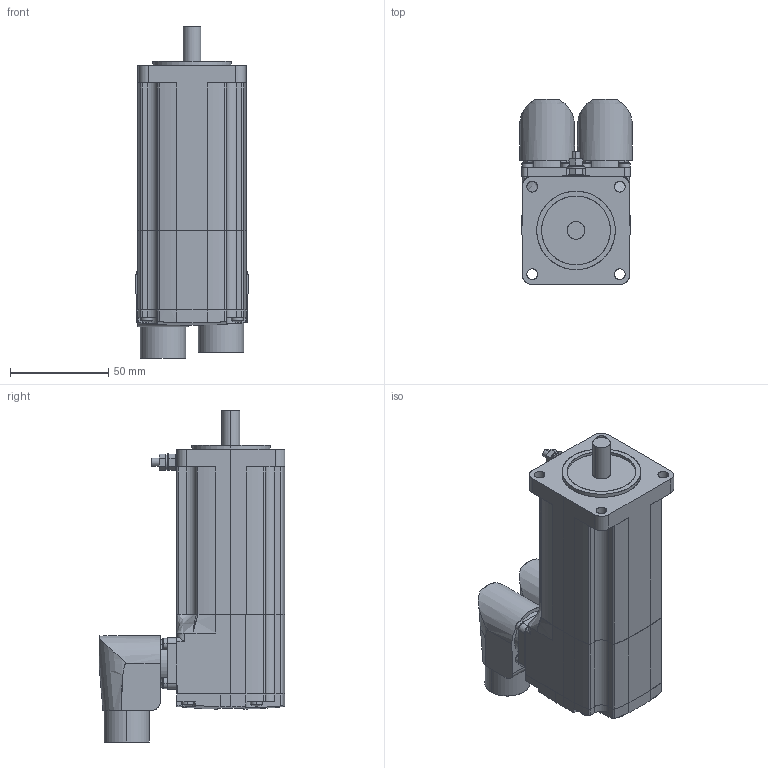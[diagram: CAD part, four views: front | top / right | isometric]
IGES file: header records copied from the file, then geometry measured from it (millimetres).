
Start section: SolidWorks IGES file using analytic representation for surfaces
Global section: file name: C:\PDM\SW-SAP\AA-IGES\SH30551x0xA2100.IGS; native system: SolidWorks 2010; preprocessor: SolidWorks 2010; author: SESA21951; date: 131129.080848; units: millimetre
Bounding box: 57.5 x 94.5 x 168.95 mm (x, y, z)
Surface area: 62462 mm2 (no closed solid volume)
Topology: 0 solids, 0 shells, 386 faces, 5815 edges, 5814 vertices
Faces by surface type: bspline 194, revolution 192
